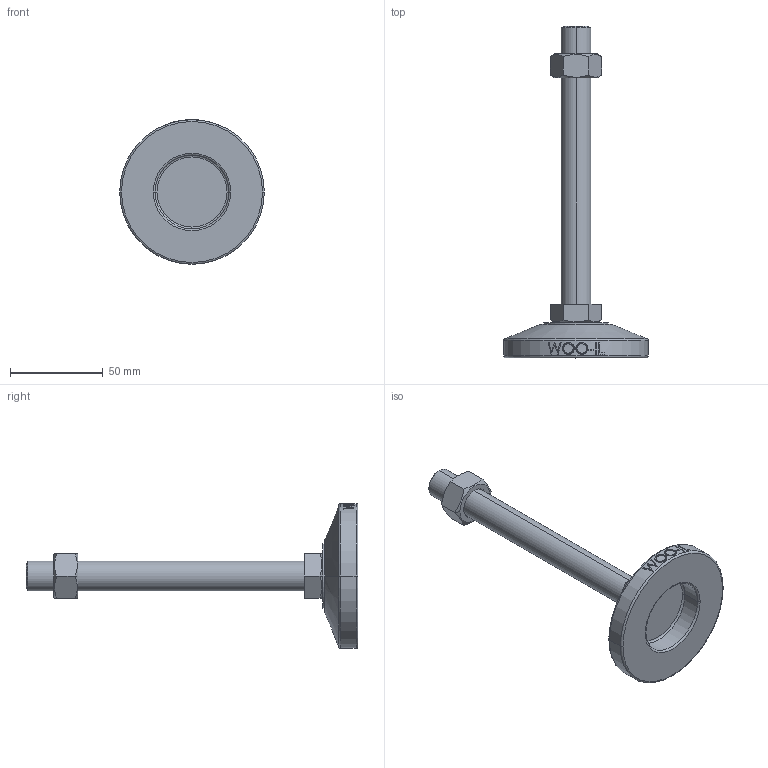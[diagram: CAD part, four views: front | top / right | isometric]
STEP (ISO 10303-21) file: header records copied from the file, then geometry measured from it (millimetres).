
FILE_DESCRIPTION (( 'STEP AP214' ), '1' );
FILE_NAME ('MFT78-M16-150.step', '2021-03-29T04:43:30', ( '' ), ( '' ), 'SwSTEP 2.0', 'SolidWorks 2019', '' );
FILE_SCHEMA (( 'AUTOMOTIVE_DESIGN' ));
Length unit declared in the file: millimetre
Products named in the file (2): MFT78-M16-150
Bounding box: 78 x 179 x 78 mm (x, y, z)
Volume: 95514.9 mm3; surface area: 25120.3 mm2
Topology: 3 solids, 3 shells, 106 faces, 243 edges, 154 vertices
Faces by surface type: plane 48, cylinder 18, bspline 16, cone 14, torus 10
Entity records: 4506 total; most frequent: CARTESIAN_POINT 2163, ORIENTED_EDGE 486, DIRECTION 439, EDGE_CURVE 243, AXIS2_PLACEMENT_3D 170, VERTEX_POINT 154, EDGE_LOOP 119, ADVANCED_FACE 106
